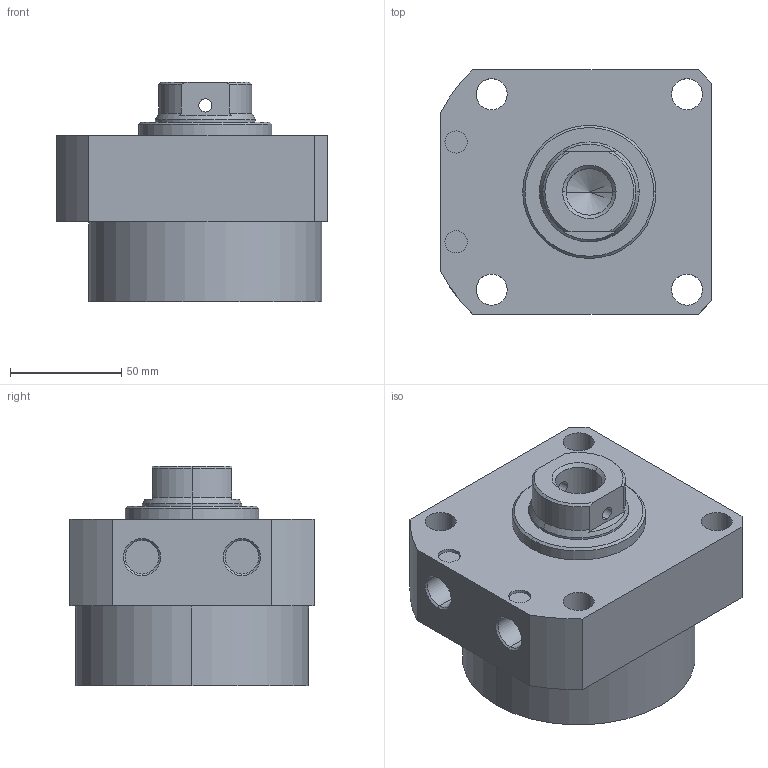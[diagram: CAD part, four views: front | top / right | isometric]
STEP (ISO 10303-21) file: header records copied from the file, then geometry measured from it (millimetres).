
FILE_DESCRIPTION (( 'STEP AP203' ), '1' );
FILE_NAME ('CLLR-105CB-015.STEP', '2019-12-19T01:38:29', ( '' ), ( '' ), 'SwSTEP 2.0', 'SolidWorks 2015', '' );
FILE_SCHEMA (( 'CONFIG_CONTROL_DESIGN' ));
Length unit declared in the file: millimetre
Products named in the file (1): CLLR-105CB-015
Bounding box: 122 x 110 x 99 mm (x, y, z)
Volume: 813802 mm3; surface area: 69830.2 mm2
Topology: 1 solids, 1 shells, 67 faces, 160 edges, 101 vertices
Faces by surface type: cylinder 33, plane 19, cone 15
Entity records: 2165 total; most frequent: CARTESIAN_POINT 471, DIRECTION 358, ORIENTED_EDGE 316, EDGE_CURVE 158, AXIS2_PLACEMENT_3D 144, VERTEX_POINT 101, EDGE_LOOP 87, CIRCLE 76
